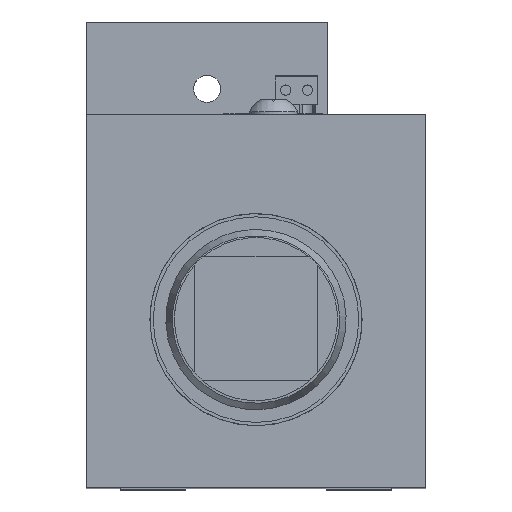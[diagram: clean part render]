
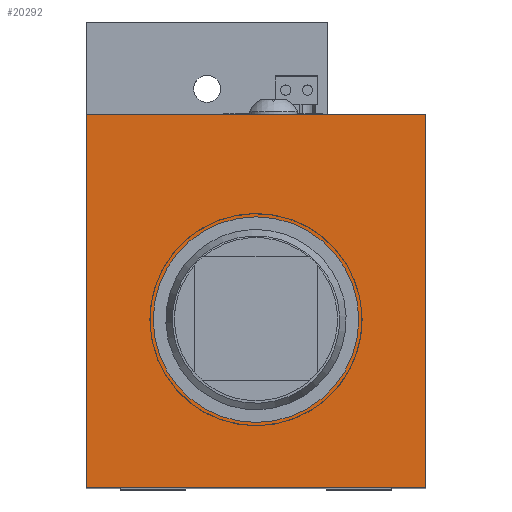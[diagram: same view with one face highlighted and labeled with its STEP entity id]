
A CAD part, top view. The second image highlights one B-rep face of the part: STEP entity #20292.
In plain terms, the highlighted planar face has unit normal (0, 0, 1).
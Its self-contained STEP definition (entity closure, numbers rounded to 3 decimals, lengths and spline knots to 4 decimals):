
#2239=LINE('',#29257,#3172);
#2242=LINE('',#29271,#3175);
#2243=LINE('',#29273,#3176);
#2244=LINE('',#29274,#3177);
#3172=VECTOR('',#24151,0.3937);
#3175=VECTOR('',#24164,0.3937);
#3176=VECTOR('',#24165,0.3937);
#3177=VECTOR('',#24166,0.3937);
#4313=FACE_BOUND('',#5637,.T.);
#4456=FACE_OUTER_BOUND('',#5636,.T.);
#5636=EDGE_LOOP('',(#13530,#13531,#13532,#13533));
#5637=EDGE_LOOP('',(#13534));
#6900=CIRCLE('',#21915,0.7875);
#7955=VERTEX_POINT('',#29099);
#8009=VERTEX_POINT('',#29253);
#8011=VERTEX_POINT('',#29256);
#8017=VERTEX_POINT('',#29270);
#8018=VERTEX_POINT('',#29272);
#10136=EDGE_CURVE('',#7955,#7955,#6900,.T.);
#10212=EDGE_CURVE('',#8011,#8009,#2239,.T.);
#10219=EDGE_CURVE('',#8009,#8017,#2242,.T.);
#10220=EDGE_CURVE('',#8017,#8018,#2243,.T.);
#10221=EDGE_CURVE('',#8018,#8011,#2244,.T.);
#13530=ORIENTED_EDGE('',*,*,#10212,.T.);
#13531=ORIENTED_EDGE('',*,*,#10219,.T.);
#13532=ORIENTED_EDGE('',*,*,#10220,.T.);
#13533=ORIENTED_EDGE('',*,*,#10221,.T.);
#13534=ORIENTED_EDGE('',*,*,#10136,.T.);
#19936=PLANE('',#21962);
#20292=ADVANCED_FACE('',(#4456,#4313),#19936,.T.);
#21915=AXIS2_PLACEMENT_3D('',#29100,#24007,#24008);
#21962=AXIS2_PLACEMENT_3D('',#29269,#24162,#24163);
#24007=DIRECTION('center_axis',(0.,0.,-1.));
#24008=DIRECTION('ref_axis',(-1.,0.,0.));
#24151=DIRECTION('',(1.,0.,0.));
#24162=DIRECTION('center_axis',(0.,0.,1.));
#24163=DIRECTION('ref_axis',(1.,0.,0.));
#24164=DIRECTION('',(0.,1.,0.));
#24165=DIRECTION('',(-1.,0.,0.));
#24166=DIRECTION('',(0.,-1.,0.));
#29099=CARTESIAN_POINT('',(0.7875,-0.1378,3.643));
#29100=CARTESIAN_POINT('Origin',(0.,-0.1378,3.643));
#29253=CARTESIAN_POINT('',(1.2992,-1.422,3.643));
#29256=CARTESIAN_POINT('',(-1.2992,-1.422,3.643));
#29257=CARTESIAN_POINT('',(0.,-1.422,3.643));
#29269=CARTESIAN_POINT('Origin',(0.,0.,3.643));
#29270=CARTESIAN_POINT('',(1.2992,1.437,3.643));
#29271=CARTESIAN_POINT('',(1.2992,-1.437,3.643));
#29272=CARTESIAN_POINT('',(-1.2992,1.437,3.643));
#29273=CARTESIAN_POINT('',(1.2992,1.437,3.643));
#29274=CARTESIAN_POINT('',(-1.2992,1.437,3.643));
